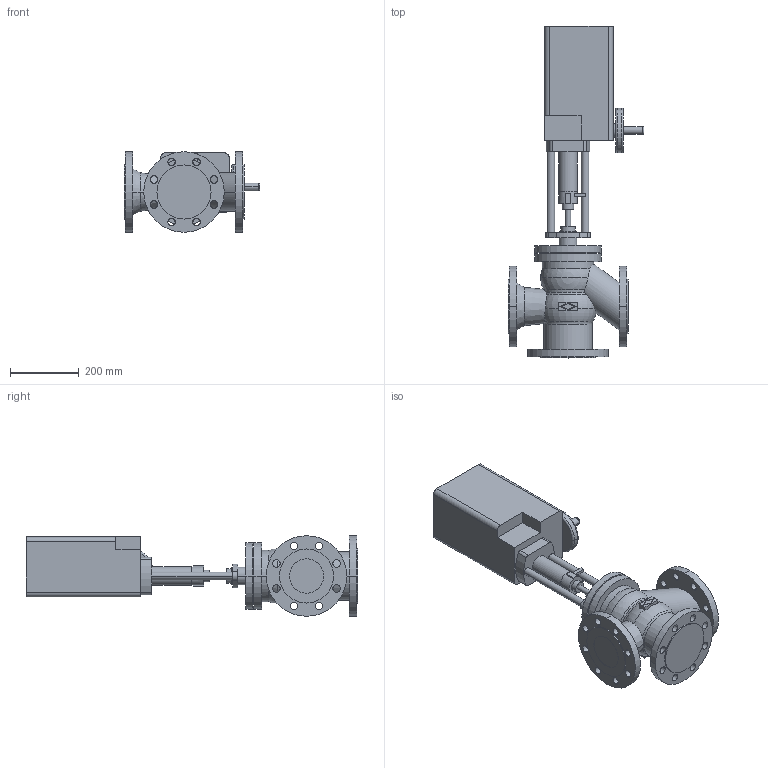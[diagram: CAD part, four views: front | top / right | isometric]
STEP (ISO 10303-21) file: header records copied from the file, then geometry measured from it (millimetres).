
FILE_DESCRIPTION(('OneSpaceDesigner STEP Export'),'2;1');
FILE_NAME('c000002413.stp','2006-09-19T12:08:15',(''),(''),'OneSpace Designer STEP processor for AP214 (Solid Model)','OneSpace Designer 13.20A 18-Aug-2005 (C) CoCreate Software GmbH','');
FILE_SCHEMA(('AUTOMOTIVE_DESIGN { 1 0 10303 214 1 1 1 1 }'));
Length unit declared in the file: millimetre
Products named in the file (2): 1; 2
Bounding box: 396.6 x 968 x 235 mm (x, y, z)
Volume: 23220496.3 mm3; surface area: 1009776.3 mm2
Topology: 2 solids, 2 shells, 220 faces, 558 edges, 367 vertices
Faces by surface type: cylinder 114, plane 82, torus 16, sphere 4, cone 4
Entity records: 6089 total; most frequent: CARTESIAN_POINT 1188, ORIENTED_EDGE 1108, DIRECTION 877, EDGE_CURVE 554, VERTEX_POINT 367, AXIS2_PLACEMENT_3D 320, EDGE_LOOP 297, VECTOR 237
